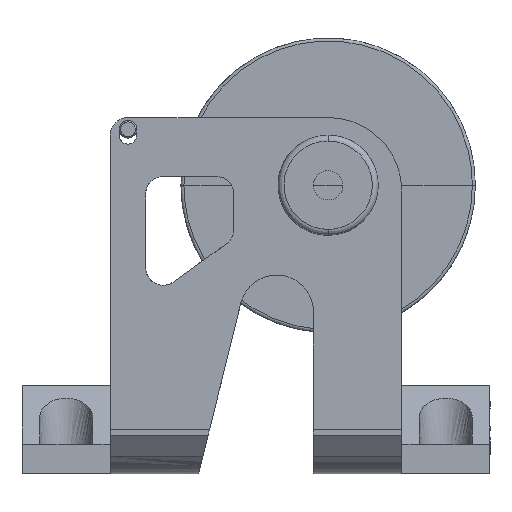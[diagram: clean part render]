
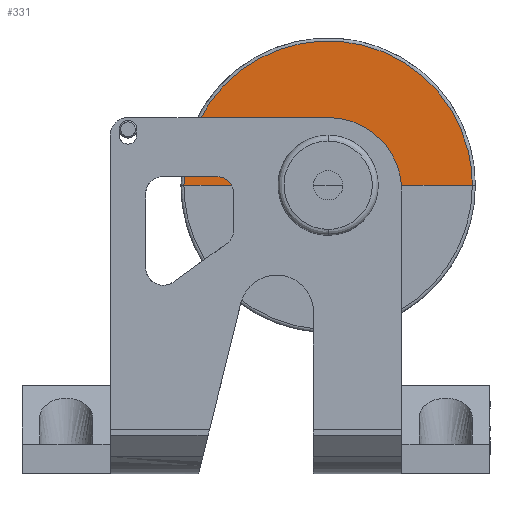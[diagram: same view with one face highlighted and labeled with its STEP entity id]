
A CAD part, left-side view. The second image highlights one B-rep face of the part: STEP entity #331.
In plain terms, the highlighted free-form (B-spline) face has degree [1, 2] with [2, 5] control points.
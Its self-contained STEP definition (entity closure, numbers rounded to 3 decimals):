
#331=ADVANCED_FACE($,(#634),#3266,.T.);
#634=FACE_OUTER_BOUND($,#921,.T.);
#921=EDGE_LOOP($,(#1779,#1780,#1781,#1782));
#1779=ORIENTED_EDGE($,*,*,#2574,.F.);
#1780=ORIENTED_EDGE($,*,*,#2575,.T.);
#1781=ORIENTED_EDGE($,*,*,#2606,.F.);
#1782=ORIENTED_EDGE($,*,*,#2604,.F.);
#2574=EDGE_CURVE($,#3011,#3026,#10182,.T.);
#2575=EDGE_CURVE($,#3011,#3018,#3623,.T.);
#2604=EDGE_CURVE($,#3026,#3027,#3637,.T.);
#2606=EDGE_CURVE($,#3027,#3018,#3638,.T.);
#3011=VERTEX_POINT($,#8793);
#3018=VERTEX_POINT($,#8800);
#3026=VERTEX_POINT($,#8808);
#3027=VERTEX_POINT($,#8809);
#3266=(
BOUNDED_SURFACE()
B_SPLINE_SURFACE(1,2,((#8356,#8357,#8358,#8359,#8360),(#8361,#8362,#8363,
#8364,#8365)),.UNSPECIFIED.,.F.,.F.,.F.)
B_SPLINE_SURFACE_WITH_KNOTS((2,2),(3,2,3),(0.,32.5),(0.,1.571,
3.142),.UNSPECIFIED.)
GEOMETRIC_REPRESENTATION_ITEM()
RATIONAL_B_SPLINE_SURFACE(((1.,0.707,1.,0.707,1.),
(1.,0.707,1.,0.707,1.)))
REPRESENTATION_ITEM($)
SURFACE()
);
#3623=B_SPLINE_CURVE_WITH_KNOTS($,1,(#8082,#8083),.UNSPECIFIED.,.F.,.F.,
(2,2),(0.,32.5),.UNSPECIFIED.);
#3637=B_SPLINE_CURVE_WITH_KNOTS($,1,(#8215,#8216),.UNSPECIFIED.,.F.,.F.,
(2,2),(0.,32.5),.UNSPECIFIED.);
#3638=B_SPLINE_CURVE_WITH_KNOTS($,3,(#8222,#8223,#8224,#8225,#8226,#8227,
#8228,#8229,#8230,#8231,#8232),.UNSPECIFIED.,.F.,.F.,(4,1,1,1,1,1,1,1,4),
(51.836,58.316,64.795,71.275,77.754,
84.234,90.713,97.193,103.672),.UNSPECIFIED.);
#8077=CARTESIAN_POINT($,(-70.159,-57.695,74.836));
#8078=CARTESIAN_POINT($,(-70.159,-57.695,123.836));
#8079=CARTESIAN_POINT($,(-70.159,-106.695,123.836));
#8080=CARTESIAN_POINT($,(-70.159,-155.695,123.836));
#8081=CARTESIAN_POINT($,(-70.159,-155.695,74.836));
#8082=CARTESIAN_POINT($,(-70.159,-57.695,74.836));
#8083=CARTESIAN_POINT($,(-70.159,-90.195,74.836));
#8215=CARTESIAN_POINT($,(-70.159,-155.695,74.836));
#8216=CARTESIAN_POINT($,(-70.159,-123.195,74.836));
#8222=CARTESIAN_POINT($,(-70.159,-123.195,74.836));
#8223=CARTESIAN_POINT($,(-70.159,-123.195,76.996));
#8224=CARTESIAN_POINT($,(-70.159,-122.336,81.315));
#8225=CARTESIAN_POINT($,(-70.159,-118.666,86.808));
#8226=CARTESIAN_POINT($,(-70.159,-113.174,90.478));
#8227=CARTESIAN_POINT($,(-70.159,-106.695,91.767));
#8228=CARTESIAN_POINT($,(-70.159,-100.216,90.478));
#8229=CARTESIAN_POINT($,(-70.159,-94.723,86.808));
#8230=CARTESIAN_POINT($,(-70.159,-91.054,81.315));
#8231=CARTESIAN_POINT($,(-70.159,-90.194,76.996));
#8232=CARTESIAN_POINT($,(-70.159,-90.195,74.836));
#8356=CARTESIAN_POINT($,(-70.159,-57.695,74.836));
#8357=CARTESIAN_POINT($,(-70.159,-57.695,123.836));
#8358=CARTESIAN_POINT($,(-70.159,-106.695,123.836));
#8359=CARTESIAN_POINT($,(-70.159,-155.695,123.836));
#8360=CARTESIAN_POINT($,(-70.159,-155.695,74.836));
#8361=CARTESIAN_POINT($,(-70.159,-90.195,74.836));
#8362=CARTESIAN_POINT($,(-70.159,-90.195,91.336));
#8363=CARTESIAN_POINT($,(-70.159,-106.695,91.336));
#8364=CARTESIAN_POINT($,(-70.159,-123.195,91.336));
#8365=CARTESIAN_POINT($,(-70.159,-123.195,74.836));
#8793=CARTESIAN_POINT($,(-70.159,-57.695,74.836));
#8800=CARTESIAN_POINT($,(-70.159,-90.195,74.836));
#8808=CARTESIAN_POINT($,(-70.159,-155.695,74.836));
#8809=CARTESIAN_POINT($,(-70.159,-123.195,74.836));
#10182=(
BOUNDED_CURVE()
B_SPLINE_CURVE(2,(#8077,#8078,#8079,#8080,#8081),.UNSPECIFIED.,.F.,.F.)
B_SPLINE_CURVE_WITH_KNOTS((3,2,3),(0.,1.571,3.142),
.UNSPECIFIED.)
CURVE()
GEOMETRIC_REPRESENTATION_ITEM()
RATIONAL_B_SPLINE_CURVE((1.,0.707,1.,0.707,1.))
REPRESENTATION_ITEM($)
);
